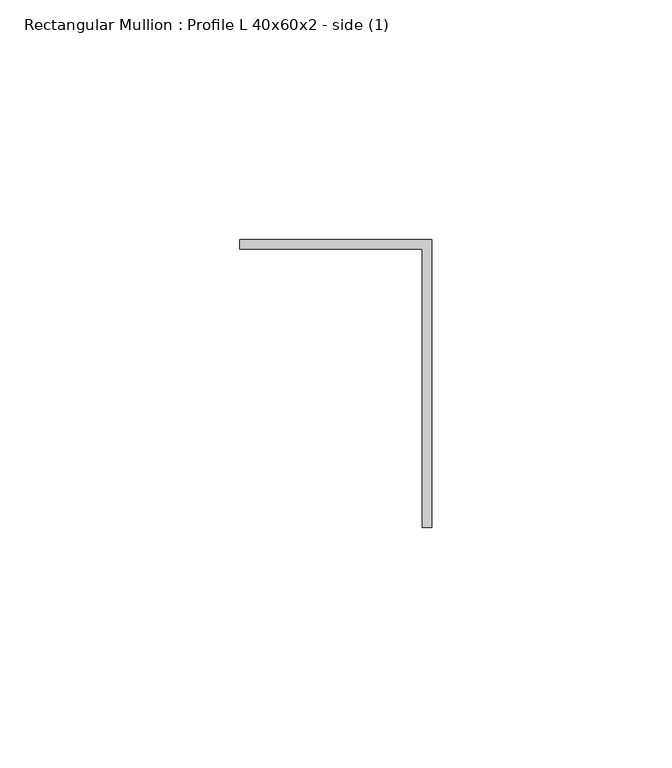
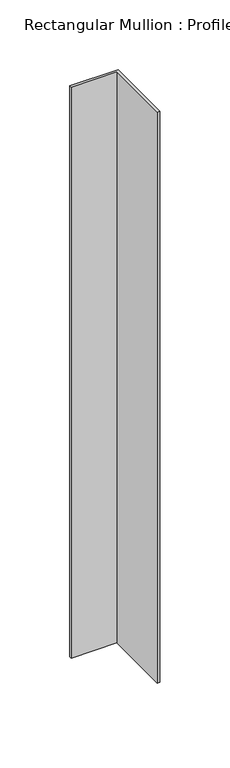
"""IFC4 building model written with IfcOpenShell, lengths in millimetres: member geometry, Rectangular Mullion : Profile L 40x60x2 - side (1)."""

from ifc_helpers import new_model, si_unit, frame, origin, place, context, project, spatial, polyline, outline, extrude, source, transform, mapped, element, save


def rectangular_mullion_profile_l_40x60x2_side_1_11e097ac(model_context):
    return source(origin(), model_context, "Body", "SweptSolid", [
        extrude(outline(polyline([(0.0, -49.5), (0.0, -109.5), (-2.0, -109.5), (-2.0, -51.5), (-40.0, -51.5), (-40.0, -49.5), (0.0, -49.5)])), frame((0.0, 0.0, -500.0), z_axis=(0.0, 0.0, 1.0), x_axis=(1.0, 0.0, 0.0)), (0.0, 0.0, 1.0), 500.0),
    ])


if __name__ == "__main__":
    model = new_model("IFC4")
    model_context = context("Model", 3, world=origin())
    ifc_project = project(units=[si_unit("LENGTHUNIT", "METRE", prefix="MILLI")], contexts=[model_context])
    site = spatial("IfcSite", under=ifc_project)
    building = spatial("IfcBuilding", under=site)
    placement = place(None, origin())
    rectangular_mullion_profile_l_40x60x2_side_1_shape = rectangular_mullion_profile_l_40x60x2_side_1_11e097ac(model_context)
    element("IfcMember", 1, ObjectType="Rectangular Mullion : Profile L 40x60x2 - side (1)", at=placement, inside=building, context=model_context, shape_type="MappedRepresentation", body=[
        mapped(rectangular_mullion_profile_l_40x60x2_side_1_shape, transform((0.0, 0.0, 0.0), x_axis=(1.0, 0.0, 0.0), y_axis=(0.0, 1.0, 0.0), z_axis=(0.0, 0.0, 1.0))),
    ])
    save(model, "model.ifc")
